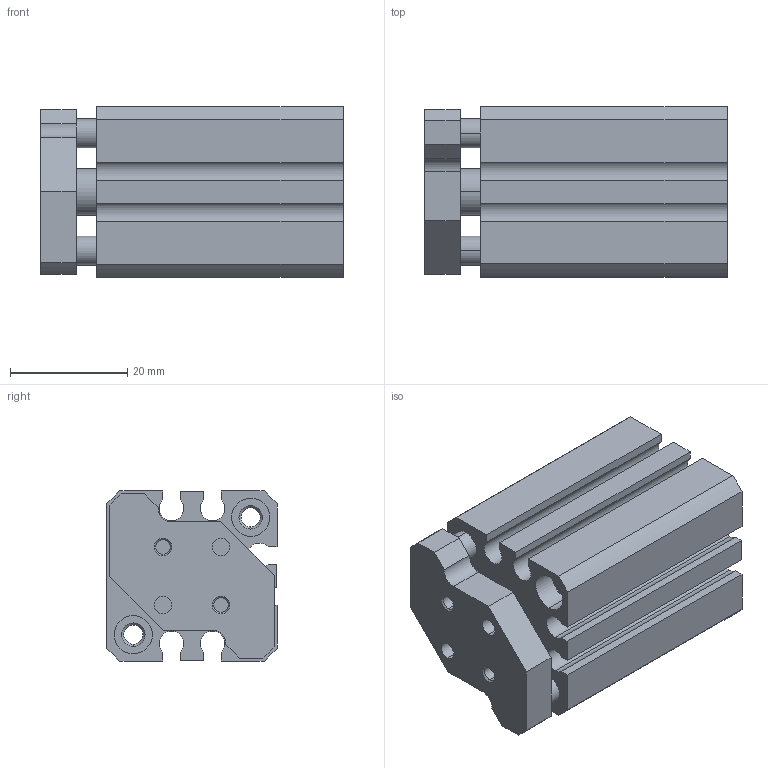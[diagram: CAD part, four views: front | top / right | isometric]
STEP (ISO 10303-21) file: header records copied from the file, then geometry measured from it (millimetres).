
FILE_DESCRIPTION (( 'STEP AP203' ), '1' );
FILE_NAME ('CCMG16-20.STEP', '2020-04-01T17:50:34', ( '' ), ( '' ), 'SwSTEP 2.0', 'SolidWorks 2019', '' );
FILE_SCHEMA (( 'CONFIG_CONTROL_DESIGN' ));
Length unit declared in the file: millimetre
Products named in the file (1): CCMG16-20
Bounding box: 51.5 x 29 x 29 mm (x, y, z)
Volume: 29484.4 mm3; surface area: 17020.2 mm2
Topology: 2 solids, 2 shells, 144 faces, 348 edges, 222 vertices
Faces by surface type: cylinder 68, plane 52, cone 24
Entity records: 4307 total; most frequent: DIRECTION 790, CARTESIAN_POINT 711, ORIENTED_EDGE 688, EDGE_CURVE 344, AXIS2_PLACEMENT_3D 301, VERTEX_POINT 222, LINE 188, VECTOR 188
